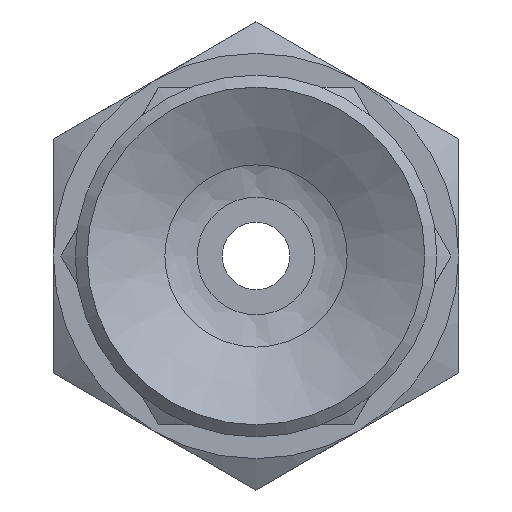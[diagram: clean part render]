
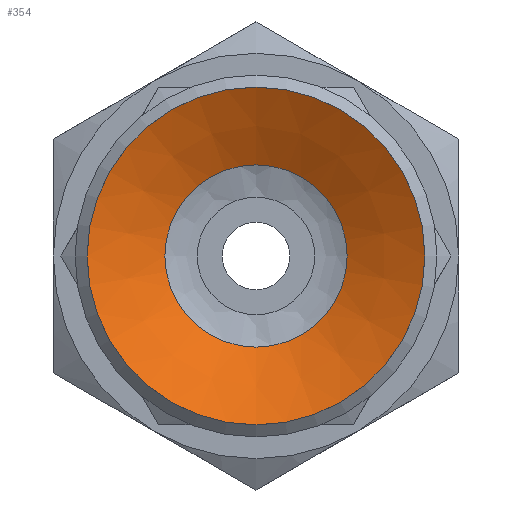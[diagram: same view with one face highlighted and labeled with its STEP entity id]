
A CAD part, front view. The second image highlights one B-rep face of the part: STEP entity #354.
In plain terms, the highlighted conical face has half-angle 61.39 degrees and reference radius 2.25 mm.
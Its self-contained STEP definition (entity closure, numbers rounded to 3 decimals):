
#354=ADVANCED_FACE('',(#552,#553),#554,.F.);
#552=FACE_BOUND('',#775,.T.);
#553=FACE_OUTER_BOUND('',#776,.T.);
#554=CONICAL_SURFACE('',#777,2.25,1.071);
#775=EDGE_LOOP('',(#1315));
#776=EDGE_LOOP('',(#1316));
#777=AXIS2_PLACEMENT_3D('',#1317,#1318,#1319);
#1315=ORIENTED_EDGE('',*,*,#1504,.T.);
#1316=ORIENTED_EDGE('',*,*,#1505,.T.);
#1317=CARTESIAN_POINT('',(0.0,1.5,0.0));
#1318=DIRECTION('',(-0.0,-1.0,0.));
#1319=DIRECTION('',(0.0,0.,-1.0));
#1504=EDGE_CURVE('',#1732,#1732,#1733,.T.);
#1505=EDGE_CURVE('',#1734,#1734,#1735,.T.);
#1732=VERTEX_POINT('',#2354);
#1733=CIRCLE('',#2355,2.698);
#1734=VERTEX_POINT('',#2356);
#1735=CIRCLE('',#2357,5.);
#2354=CARTESIAN_POINT('',(0.0,1.256,-2.698));
#2355=AXIS2_PLACEMENT_3D('',#2575,#2576,#2577);
#2356=CARTESIAN_POINT('',(0.0,0.,-5.));
#2357=AXIS2_PLACEMENT_3D('',#2578,#2579,#2580);
#2575=CARTESIAN_POINT('',(0.0,1.256,0.0));
#2576=DIRECTION('',(0.0,1.0,0.));
#2577=DIRECTION('',(0.0,0.,-1.0));
#2578=CARTESIAN_POINT('',(0.0,0.0,0.0));
#2579=DIRECTION('',(0.0,-1.0,0.));
#2580=DIRECTION('',(0.0,0.,-1.0));
